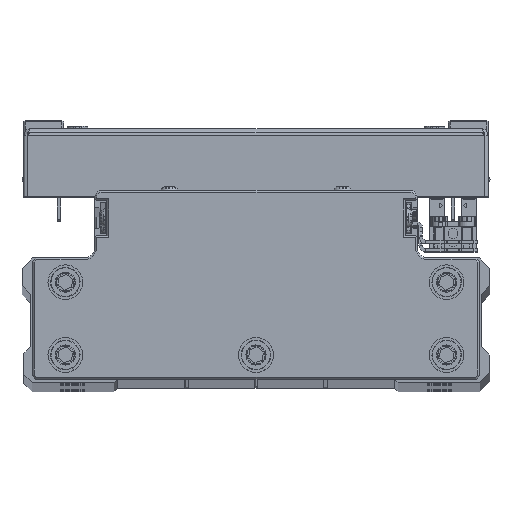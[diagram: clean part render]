
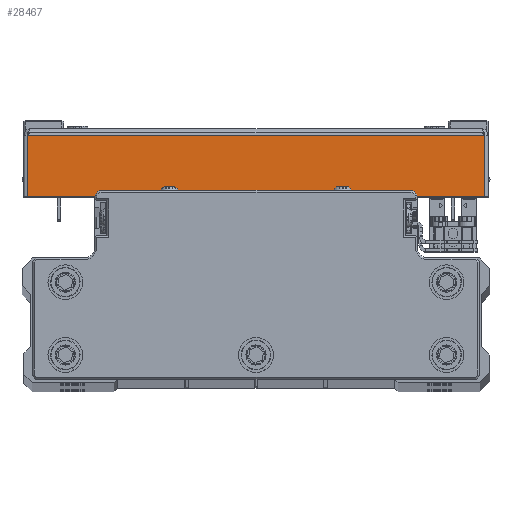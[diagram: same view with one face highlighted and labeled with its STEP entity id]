
A CAD part, top view. The second image highlights one B-rep face of the part: STEP entity #28467.
In plain terms, the highlighted planar face has unit normal (0, 0, 1) as drawn and (1, 0, 0) by its records, which use the part's own axes.
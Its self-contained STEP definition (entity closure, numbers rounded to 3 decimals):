
#649 = PLANE ( 'NONE',  #42671 ) ;
#1048 = VECTOR ( 'NONE', #29114, 1000. ) ;
#1084 = LINE ( 'NONE', #15079, #1048 ) ;
#2599 = EDGE_CURVE ( 'NONE', #5720, #12691, #1084, .T. ) ;
#4334 = LINE ( 'NONE', #18315, #43090 ) ;
#5720 = VERTEX_POINT ( 'NONE', #35523 ) ;
#6197 = DIRECTION ( 'NONE',  ( 0., 1., 0. ) ) ;
#10227 = EDGE_CURVE ( 'NONE', #21074, #25715, #23654, .T. ) ;
#11285 = VECTOR ( 'NONE', #6197, 1000. ) ;
#11971 = CARTESIAN_POINT ( 'NONE',  ( 100., 18.5, -65.929 ) ) ;
#12691 = VERTEX_POINT ( 'NONE', #37865 ) ;
#14630 = CARTESIAN_POINT ( 'NONE',  ( 100., 0., 0. ) ) ;
#15079 = CARTESIAN_POINT ( 'NONE',  ( 100., 0., 65.929 ) ) ;
#15213 = EDGE_CURVE ( 'NONE', #25715, #12691, #4334, .T. ) ;
#15933 = LINE ( 'NONE', #29954, #34871 ) ;
#18315 = CARTESIAN_POINT ( 'NONE',  ( 100., 18.5, 0. ) ) ;
#21065 = EDGE_LOOP ( 'NONE', ( #41324, #41074, #39815, #27255 ) ) ;
#21074 = VERTEX_POINT ( 'NONE', #35304 ) ;
#23654 = LINE ( 'NONE', #37701, #11285 ) ;
#25715 = VERTEX_POINT ( 'NONE', #11971 ) ;
#27255 = ORIENTED_EDGE ( 'NONE', *, *, #2599, .F. ) ;
#28467 = ADVANCED_FACE ( 'NONE', ( #32141 ), #649, .F. ) ;
#28665 = DIRECTION ( 'NONE',  ( -1., 0., 0. ) ) ;
#29114 = DIRECTION ( 'NONE',  ( 0., 1., 0. ) ) ;
#29954 = CARTESIAN_POINT ( 'NONE',  ( 100., 1., 67. ) ) ;
#32141 = FACE_OUTER_BOUND ( 'NONE', #21065, .T. ) ;
#32353 = DIRECTION ( 'NONE',  ( 0., 0., 1. ) ) ;
#33200 = EDGE_CURVE ( 'NONE', #21074, #5720, #15933, .T. ) ;
#34871 = VECTOR ( 'NONE', #43976, 1000. ) ;
#35304 = CARTESIAN_POINT ( 'NONE',  ( 100., 1., -65.929 ) ) ;
#35523 = CARTESIAN_POINT ( 'NONE',  ( 100., 1., 65.929 ) ) ;
#37701 = CARTESIAN_POINT ( 'NONE',  ( 100., 0., -65.929 ) ) ;
#37865 = CARTESIAN_POINT ( 'NONE',  ( 100., 18.5, 65.929 ) ) ;
#39815 = ORIENTED_EDGE ( 'NONE', *, *, #15213, .T. ) ;
#41074 = ORIENTED_EDGE ( 'NONE', *, *, #10227, .T. ) ;
#41324 = ORIENTED_EDGE ( 'NONE', *, *, #33200, .F. ) ;
#42671 = AXIS2_PLACEMENT_3D ( 'NONE', #14630, #28665, #42686 ) ;
#42686 = DIRECTION ( 'NONE',  ( 0., -1., 0. ) ) ;
#43090 = VECTOR ( 'NONE', #32353, 1000. ) ;
#43976 = DIRECTION ( 'NONE',  ( 0., 0., 1. ) ) ;
